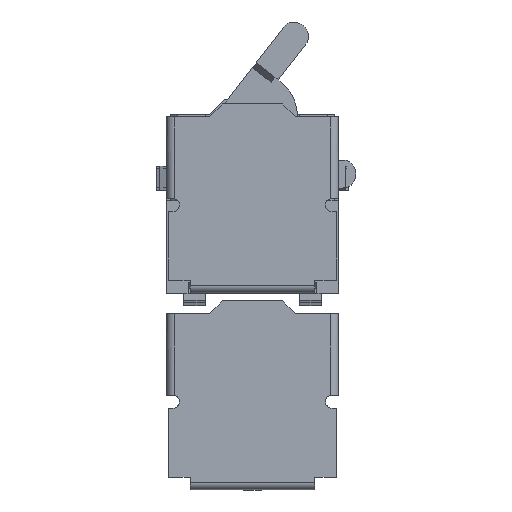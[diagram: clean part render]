
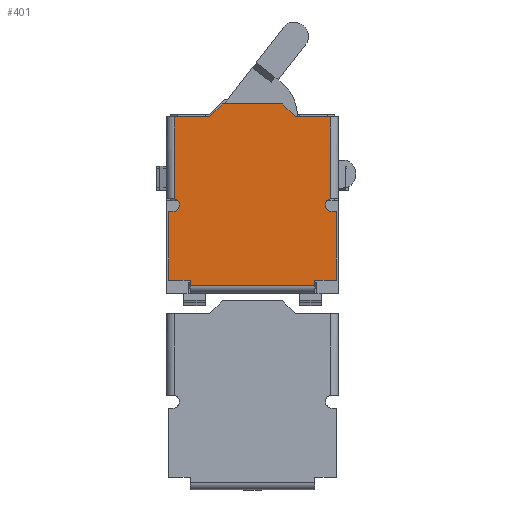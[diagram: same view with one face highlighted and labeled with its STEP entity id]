
A CAD part, top view. The second image highlights one B-rep face of the part: STEP entity #401.
In plain terms, the highlighted planar face has unit normal (0, 0, 1).
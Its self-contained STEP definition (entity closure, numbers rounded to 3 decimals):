
#401 = ADVANCED_FACE( '', ( #869 ), #870, .F. );
#869 = FACE_OUTER_BOUND( '', #1444, .T. );
#870 = PLANE( '', #1445 );
#1444 = EDGE_LOOP( '', ( #2429, #2430, #2431, #2432, #2433, #2434, #2435, #2436, #2437, #2438, #2439, #2440, #2441, #2442, #2443, #2444, #2445, #2446 ) );
#1445 = AXIS2_PLACEMENT_3D( '', #2447, #2448, #2449 );
#2429 = ORIENTED_EDGE( '', *, *, #3809, .F. );
#2430 = ORIENTED_EDGE( '', *, *, #3810, .T. );
#2431 = ORIENTED_EDGE( '', *, *, #3519, .F. );
#2432 = ORIENTED_EDGE( '', *, *, #3811, .F. );
#2433 = ORIENTED_EDGE( '', *, *, #3812, .F. );
#2434 = ORIENTED_EDGE( '', *, *, #3721, .T. );
#2435 = ORIENTED_EDGE( '', *, *, #3694, .T. );
#2436 = ORIENTED_EDGE( '', *, *, #3807, .F. );
#2437 = ORIENTED_EDGE( '', *, *, #3744, .T. );
#2438 = ORIENTED_EDGE( '', *, *, #3813, .T. );
#2439 = ORIENTED_EDGE( '', *, *, #3747, .T. );
#2440 = ORIENTED_EDGE( '', *, *, #3449, .F. );
#2441 = ORIENTED_EDGE( '', *, *, #3665, .F. );
#2442 = ORIENTED_EDGE( '', *, *, #3814, .T. );
#2443 = ORIENTED_EDGE( '', *, *, #3459, .T. );
#2444 = ORIENTED_EDGE( '', *, *, #3484, .T. );
#2445 = ORIENTED_EDGE( '', *, *, #3815, .F. );
#2446 = ORIENTED_EDGE( '', *, *, #3816, .F. );
#2447 = CARTESIAN_POINT( '', ( 5.1, -6.973, 0. ) );
#2448 = DIRECTION( '', ( 0., 0., -1. ) );
#2449 = DIRECTION( '', ( -1., 0., 0. ) );
#3449 = EDGE_CURVE( '', #4104, #4105, #4106, .T. );
#3459 = EDGE_CURVE( '', #4122, #4123, #4124, .T. );
#3484 = EDGE_CURVE( '', #4123, #4168, #4169, .T. );
#3519 = EDGE_CURVE( '', #4228, #4229, #4230, .T. );
#3665 = EDGE_CURVE( '', #4482, #4104, #4483, .T. );
#3694 = EDGE_CURVE( '', #4527, #4528, #4529, .T. );
#3721 = EDGE_CURVE( '', #4570, #4527, #4571, .T. );
#3744 = EDGE_CURVE( '', #4606, #4604, #4607, .T. );
#3747 = EDGE_CURVE( '', #4610, #4105, #4611, .T. );
#3807 = EDGE_CURVE( '', #4606, #4528, #4697, .F. );
#3809 = EDGE_CURVE( '', #4699, #4700, #4701, .T. );
#3810 = EDGE_CURVE( '', #4699, #4229, #4702, .F. );
#3811 = EDGE_CURVE( '', #4703, #4228, #4704, .T. );
#3812 = EDGE_CURVE( '', #4570, #4703, #4705, .T. );
#3813 = EDGE_CURVE( '', #4604, #4610, #4706, .T. );
#3814 = EDGE_CURVE( '', #4482, #4122, #4707, .F. );
#3815 = EDGE_CURVE( '', #4708, #4168, #4709, .T. );
#3816 = EDGE_CURVE( '', #4700, #4708, #4710, .T. );
#4104 = VERTEX_POINT( '', #5076 );
#4105 = VERTEX_POINT( '', #5077 );
#4106 = LINE( '', #5078, #5079 );
#4122 = VERTEX_POINT( '', #5102 );
#4123 = VERTEX_POINT( '', #5103 );
#4124 = LINE( '', #5104, #5105 );
#4168 = VERTEX_POINT( '', #5167 );
#4169 = LINE( '', #5168, #5169 );
#4228 = VERTEX_POINT( '', #5254 );
#4229 = VERTEX_POINT( '', #5255 );
#4230 = LINE( '', #5256, #5257 );
#4482 = VERTEX_POINT( '', #5625 );
#4483 = LINE( '', #5626, #5627 );
#4527 = VERTEX_POINT( '', #5688 );
#4528 = VERTEX_POINT( '', #5689 );
#4529 = LINE( '', #5690, #5691 );
#4570 = VERTEX_POINT( '', #5752 );
#4571 = LINE( '', #5753, #5754 );
#4604 = VERTEX_POINT( '', #5800 );
#4606 = VERTEX_POINT( '', #5803 );
#4607 = CIRCLE( '', #5804, 0.15 );
#4610 = VERTEX_POINT( '', #5810 );
#4611 = LINE( '', #5811, #5812 );
#4697 = LINE( '', #5940, #5941 );
#4699 = VERTEX_POINT( '', #5943 );
#4700 = VERTEX_POINT( '', #5944 );
#4701 = CIRCLE( '', #5945, 0.15 );
#4702 = LINE( '', #5946, #5947 );
#4703 = VERTEX_POINT( '', #5948 );
#4704 = LINE( '', #5949, #5950 );
#4705 = LINE( '', #5951, #5952 );
#4706 = LINE( '', #5953, #5954 );
#4707 = LINE( '', #5955, #5956 );
#4708 = VERTEX_POINT( '', #5957 );
#4709 = LINE( '', #5958, #5959 );
#4710 = LINE( '', #5960, #5961 );
#5076 = CARTESIAN_POINT( '', ( -1.45, -6.673, 0. ) );
#5077 = CARTESIAN_POINT( '', ( -1.95, -6.673, 0. ) );
#5078 = CARTESIAN_POINT( '', ( -1.45, -6.673, 0. ) );
#5079 = VECTOR( '', #6476, 1000. );
#5102 = CARTESIAN_POINT( '', ( 1.45, -6.793, 0. ) );
#5103 = CARTESIAN_POINT( '', ( 1.45, -6.673, 0. ) );
#5104 = CARTESIAN_POINT( '', ( 1.45, -6.973, 0. ) );
#5105 = VECTOR( '', #6484, 1000. );
#5167 = CARTESIAN_POINT( '', ( 1.95, -6.673, 0. ) );
#5168 = CARTESIAN_POINT( '', ( 1.45, -6.673, 0. ) );
#5169 = VECTOR( '', #6509, 1000. );
#5254 = CARTESIAN_POINT( '', ( 1., -2.873, 0. ) );
#5255 = CARTESIAN_POINT( '', ( 1.82, -2.873, 0. ) );
#5256 = CARTESIAN_POINT( '', ( 1., -2.873, 0. ) );
#5257 = VECTOR( '', #6539, 1000. );
#5625 = CARTESIAN_POINT( '', ( -1.45, -6.793, 0. ) );
#5626 = CARTESIAN_POINT( '', ( -1.45, -6.973, 0. ) );
#5627 = VECTOR( '', #6683, 1000. );
#5688 = CARTESIAN_POINT( '', ( -1., -2.873, 0. ) );
#5689 = CARTESIAN_POINT( '', ( -1.82, -2.873, 0. ) );
#5690 = CARTESIAN_POINT( '', ( -1., -2.873, 0. ) );
#5691 = VECTOR( '', #6716, 1000. );
#5752 = CARTESIAN_POINT( '', ( -0.7, -2.573, 0. ) );
#5753 = CARTESIAN_POINT( '', ( -0.7, -2.573, 0. ) );
#5754 = VECTOR( '', #6749, 1000. );
#5800 = CARTESIAN_POINT( '', ( -1.85, -5.073, 0. ) );
#5803 = CARTESIAN_POINT( '', ( -1.82, -4.776, 0. ) );
#5804 = AXIS2_PLACEMENT_3D( '', #6773, #6774, #6775 );
#5810 = CARTESIAN_POINT( '', ( -1.95, -5.073, 0. ) );
#5811 = CARTESIAN_POINT( '', ( -1.95, -6.973, 0. ) );
#5812 = VECTOR( '', #6776, 1000. );
#5940 = CARTESIAN_POINT( '', ( -1.82, -6.973, 0. ) );
#5941 = VECTOR( '', #6828, 1000. );
#5943 = CARTESIAN_POINT( '', ( 1.82, -4.776, 0. ) );
#5944 = CARTESIAN_POINT( '', ( 1.85, -5.073, 0. ) );
#5945 = AXIS2_PLACEMENT_3D( '', #6829, #6830, #6831 );
#5946 = CARTESIAN_POINT( '', ( 1.82, -6.973, 0. ) );
#5947 = VECTOR( '', #6832, 1000. );
#5948 = CARTESIAN_POINT( '', ( 0.7, -2.573, 0. ) );
#5949 = CARTESIAN_POINT( '', ( 0.7, -2.573, 0. ) );
#5950 = VECTOR( '', #6833, 1000. );
#5951 = CARTESIAN_POINT( '', ( 0., -2.573, 0. ) );
#5952 = VECTOR( '', #6834, 1000. );
#5953 = CARTESIAN_POINT( '', ( -1.85, -5.073, 0. ) );
#5954 = VECTOR( '', #6835, 1000. );
#5955 = CARTESIAN_POINT( '', ( 5.1, -6.793, 0. ) );
#5956 = VECTOR( '', #6836, 1000. );
#5957 = CARTESIAN_POINT( '', ( 1.95, -5.073, 0. ) );
#5958 = CARTESIAN_POINT( '', ( 1.95, -6.973, 0. ) );
#5959 = VECTOR( '', #6837, 1000. );
#5960 = CARTESIAN_POINT( '', ( 1.85, -5.073, 0. ) );
#5961 = VECTOR( '', #6838, 1000. );
#6476 = DIRECTION( '', ( -1., 0., 0. ) );
#6484 = DIRECTION( '', ( 0., 1., 0. ) );
#6509 = DIRECTION( '', ( 1., 0., 0. ) );
#6539 = DIRECTION( '', ( 1., 0., 0. ) );
#6683 = DIRECTION( '', ( 0., 1., 0. ) );
#6716 = DIRECTION( '', ( -1., 0., 0. ) );
#6749 = DIRECTION( '', ( -0.707, -0.707, 0. ) );
#6773 = CARTESIAN_POINT( '', ( -1.85, -4.923, 0. ) );
#6774 = DIRECTION( '', ( 0., 0., -1. ) );
#6775 = DIRECTION( '', ( 0., 1., 0. ) );
#6776 = DIRECTION( '', ( 0., -1., 0. ) );
#6828 = DIRECTION( '', ( 0., -1., 0. ) );
#6829 = CARTESIAN_POINT( '', ( 1.85, -4.923, 0. ) );
#6830 = DIRECTION( '', ( 0., 0., 1. ) );
#6831 = DIRECTION( '', ( 0., 1., 0. ) );
#6832 = DIRECTION( '', ( 0., -1., 0. ) );
#6833 = DIRECTION( '', ( 0.707, -0.707, 0. ) );
#6834 = DIRECTION( '', ( 1., 0., 0. ) );
#6835 = DIRECTION( '', ( -1., 0., 0. ) );
#6836 = DIRECTION( '', ( -1., 0., 0. ) );
#6837 = DIRECTION( '', ( 0., -1., 0. ) );
#6838 = DIRECTION( '', ( 1., 0., 0. ) );
